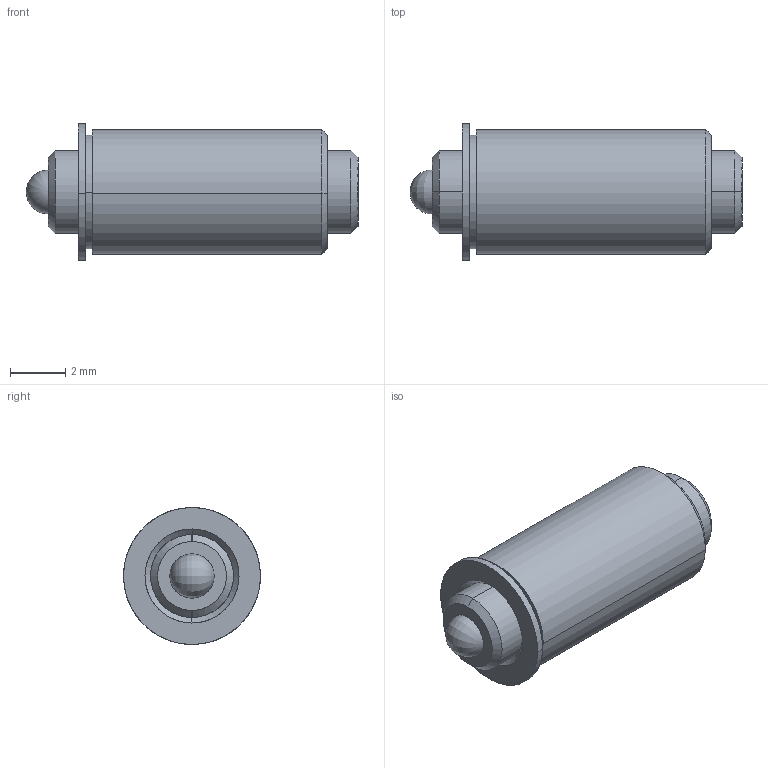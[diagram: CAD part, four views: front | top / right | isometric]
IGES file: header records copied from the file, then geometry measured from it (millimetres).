
Start section: SolidWorks IGES file using analytic representation for surfaces
Global section: file name: C:\Users\workpc\Desktop\KMA Solidworks\TSBM3-25-12_9.IGS; native system: SolidWorks 2013; preprocessor: SolidWorks 2013; author: workpc; date: 130314.161247; units: inch
Bounding box: 12 x 4.95 x 4.95 mm (x, y, z)
Surface area: 288.2 mm2 (no closed solid volume)
Topology: 0 solids, 0 shells, 32 faces, 446 edges, 442 vertices
Faces by surface type: revolution 20, bspline 12
